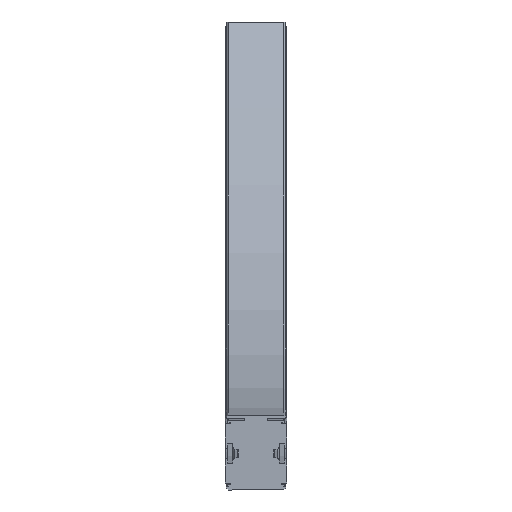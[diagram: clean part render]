
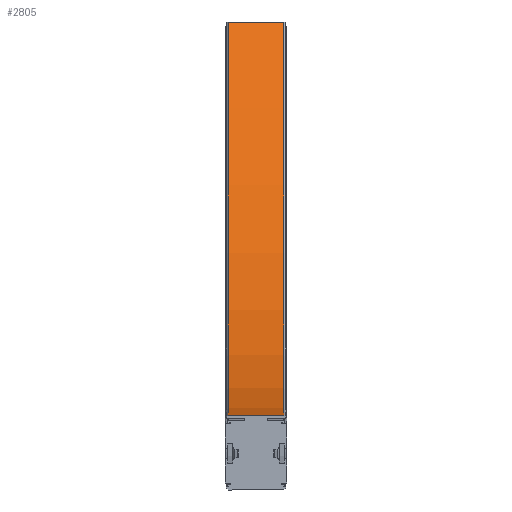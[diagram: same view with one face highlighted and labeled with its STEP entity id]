
A CAD part, front view. The second image highlights one B-rep face of the part: STEP entity #2805.
In plain terms, the highlighted cylindrical face has radius 820 mm (diameter 1640 mm), a partial arc.
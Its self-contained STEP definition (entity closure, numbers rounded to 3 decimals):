
#92=CYLINDRICAL_SURFACE('',#3101,820.);
#315=CIRCLE('',#3100,820.);
#316=CIRCLE('',#3102,820.);
#474=FACE_OUTER_BOUND('',#628,.T.);
#628=EDGE_LOOP('',(#2299,#2300,#2301,#2302));
#821=LINE('',#9361,#1027);
#822=LINE('',#9363,#1028);
#1027=VECTOR('',#3830,10.);
#1028=VECTOR('',#3831,10.);
#1299=VERTEX_POINT('',#9354);
#1300=VERTEX_POINT('',#9356);
#1301=VERTEX_POINT('',#9360);
#1302=VERTEX_POINT('',#9362);
#1698=EDGE_CURVE('',#1299,#1300,#315,.T.);
#1699=EDGE_CURVE('',#1301,#1299,#821,.T.);
#1700=EDGE_CURVE('',#1302,#1300,#822,.T.);
#1701=EDGE_CURVE('',#1301,#1302,#316,.T.);
#2299=ORIENTED_EDGE('',*,*,#1699,.T.);
#2300=ORIENTED_EDGE('',*,*,#1698,.T.);
#2301=ORIENTED_EDGE('',*,*,#1700,.F.);
#2302=ORIENTED_EDGE('',*,*,#1701,.F.);
#2805=ADVANCED_FACE('',(#474),#92,.F.);
#3100=AXIS2_PLACEMENT_3D('',#9358,#3826,#3827);
#3101=AXIS2_PLACEMENT_3D('',#9359,#3828,#3829);
#3102=AXIS2_PLACEMENT_3D('',#9364,#3832,#3833);
#3826=DIRECTION('center_axis',(1.,0.,0.));
#3827=DIRECTION('ref_axis',(0.,0.,-1.));
#3828=DIRECTION('center_axis',(1.,0.,0.));
#3829=DIRECTION('ref_axis',(0.,0.,-1.));
#3830=DIRECTION('',(1.,0.,0.));
#3831=DIRECTION('',(1.,0.,0.));
#3832=DIRECTION('center_axis',(1.,0.,0.));
#3833=DIRECTION('ref_axis',(0.,0.,-1.));
#9354=CARTESIAN_POINT('',(29.,0.,40.));
#9356=CARTESIAN_POINT('',(29.,710.141,450.));
#9358=CARTESIAN_POINT('Origin',(29.,0.,860.));
#9359=CARTESIAN_POINT('Origin',(-14.5,0.,860.));
#9360=CARTESIAN_POINT('',(-29.,0.,40.));
#9361=CARTESIAN_POINT('',(-29.,0.,40.));
#9362=CARTESIAN_POINT('',(-29.,710.141,450.));
#9363=CARTESIAN_POINT('',(-29.,710.141,450.));
#9364=CARTESIAN_POINT('Origin',(-29.,0.,
860.));
